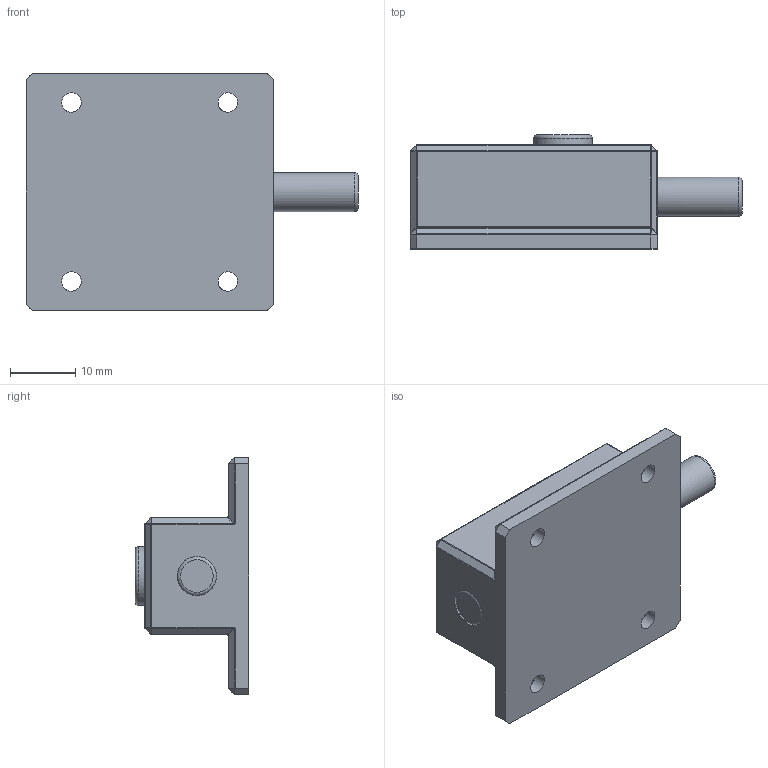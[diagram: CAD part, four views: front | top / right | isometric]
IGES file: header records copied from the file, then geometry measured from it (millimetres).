
Global section: file name: DR_ODS-404; native system: Autodesk Inventor 2015; preprocessor: unknown; author: CH.J; date: 20170901.154656; units: millimetre
Bounding box: 51 x 17.5 x 36.5 mm (x, y, z)
Volume: 13383.6 mm3; surface area: 6252.6 mm2
Topology: 2 solids, 2 shells, 159 faces, 391 edges, 237 vertices
Faces by surface type: bspline 159
